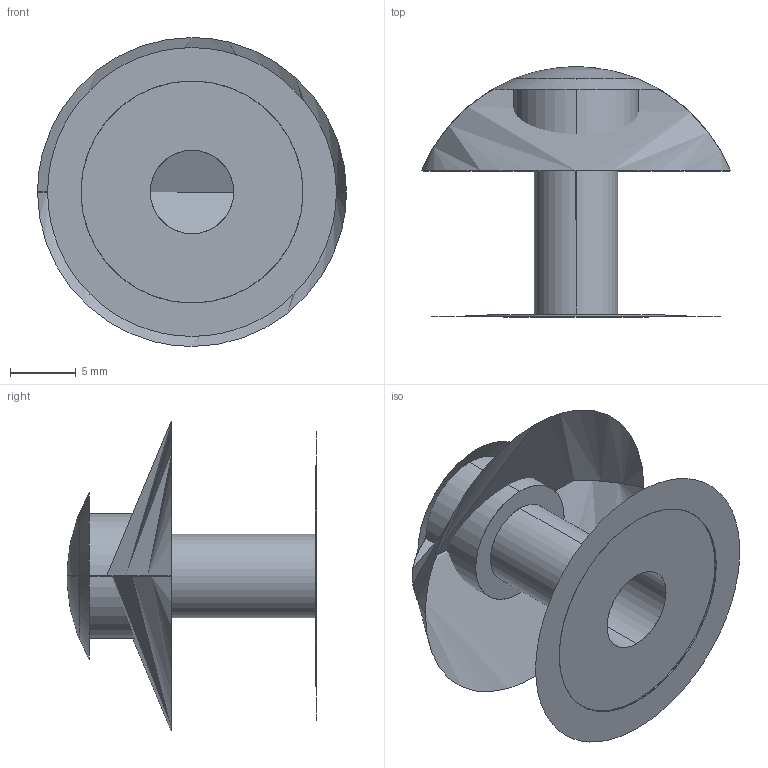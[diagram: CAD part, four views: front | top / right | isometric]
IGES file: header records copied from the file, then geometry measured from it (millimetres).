
Start section: SolidWorks IGES file using analytic representation for surfaces
Global section: file name: D:\Solid_parts\MECHeDESIGN\Bal-Tec\Catalog 105-A\Distribution\IGES\100-TBR-CB.IGS; native system: SolidWorks 2005 by SolidWorks Corporation; preprocessor: SolidWorks 2005 by SolidWorks Corporation; author: rvillegas; date: 061205.184701; units: inch
Bounding box: 23.55 x 19.04 x 23.55 mm (x, y, z)
Surface area: 1576.4 mm2 (no closed solid volume)
Topology: 0 solids, 0 shells, 11 faces, 228 edges, 228 vertices
Faces by surface type: revolution 8, bspline 3
